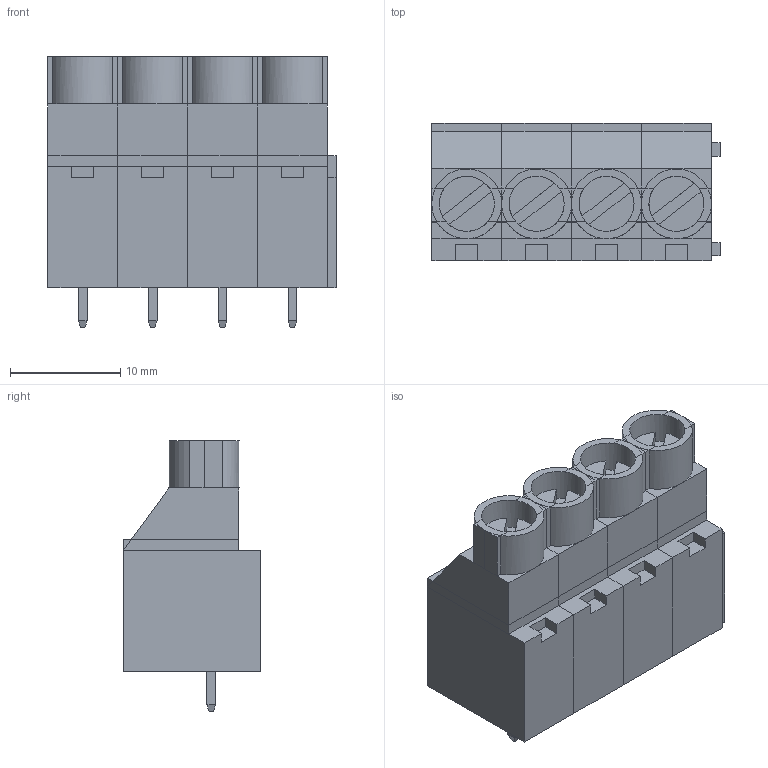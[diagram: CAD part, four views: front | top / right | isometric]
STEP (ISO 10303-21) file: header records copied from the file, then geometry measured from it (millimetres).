
FILE_DESCRIPTION(('FreeCAD Model'),'2;1');
FILE_NAME('Open CASCADE Shape Model','2023-12-05T12:14:29',('Author'),( ''),'Open CASCADE STEP processor 7.6','FreeCAD','Unknown');
FILE_SCHEMA(('AUTOMOTIVE_DESIGN { 1 0 10303 214 1 1 1 1 }'));
Length unit declared in the file: millimetre
Products named in the file (1): Group004
Bounding box: 26.2 x 12.5 x 24.6 mm (x, y, z)
Volume: 4270.5 mm3; surface area: 3142.8 mm2
Topology: 1 solids, 5 shells, 294 faces, 687 edges, 415 vertices
Faces by surface type: plane 278, cylinder 16
Full cylindrical faces by diameter (mm): 5 x8
Entity records: 18982 total; most frequent: CARTESIAN_POINT 3173, DIRECTION 2477, LINE 1635, VECTOR 1635, ORIENTED_EDGE 1374, PCURVE 1374, DEFINITIONAL_REPRESENTATION 1374, EDGE_CURVE 687
